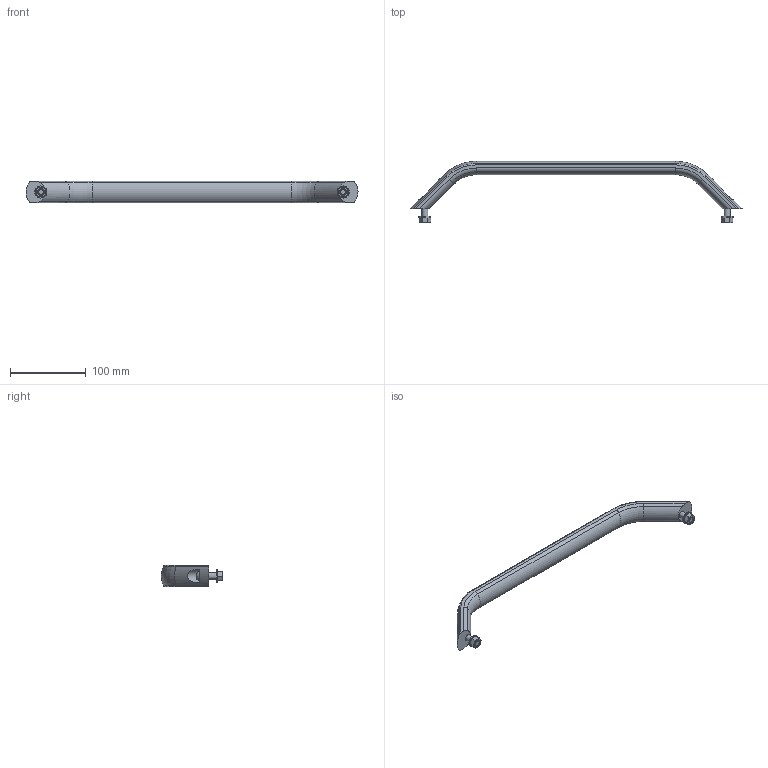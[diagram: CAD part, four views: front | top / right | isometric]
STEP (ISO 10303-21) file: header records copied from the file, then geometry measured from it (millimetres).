
FILE_DESCRIPTION( ( 'STEP AP203' ), '1' );
FILE_NAME( 'C:/Temp/Ganter_Step_05_03_2020/data/1_2/gn_428/gn_428_b/Cabinet U-handle GN 428-AL-28-400-B-EL.stp', '2020-03-05T10:11:37', ( 'License CC BY-ND 4.0' ), ( 'CADENAS' ), ' ', 'PARTsolutions', ' ' );
FILE_SCHEMA( ( 'CONFIG_CONTROL_DESIGN' ) );
Length unit declared in the file: millimetre
Products named in the file (1): _Cabinet U-handle GN 428-AL-28-400-B-EL
Bounding box: 439.43 x 81.4 x 28 mm (x, y, z)
Volume: 188207.3 mm3; surface area: 39914.6 mm2
Topology: 1 solids, 1 shells, 127 faces, 279 edges, 172 vertices
Faces by surface type: plane 56, cylinder 32, cone 25, torus 12, bspline 2
Full cylindrical faces by diameter (mm): 8 x4, 8.4 x2, 9 x2, 14 x2, 16 x2
Entity records: 3692 total; most frequent: CARTESIAN_POINT 956, DIRECTION 572, ORIENTED_EDGE 514, EDGE_CURVE 257, AXIS2_PLACEMENT_3D 239, VERTEX_POINT 171, EDGE_LOOP 166, FACE_OUTER_BOUND 141
